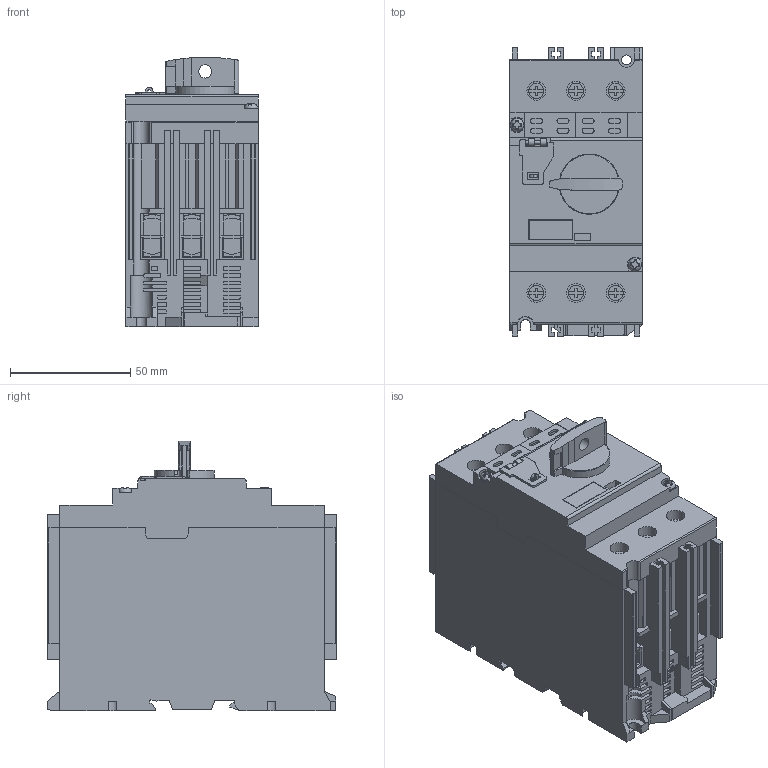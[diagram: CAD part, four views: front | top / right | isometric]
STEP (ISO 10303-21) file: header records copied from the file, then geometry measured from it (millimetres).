
FILE_DESCRIPTION (( 'STEP AP214' ), '1' );
FILE_NAME ('BM3VHB.STEP', '2015-06-04T01:04:08', ( '川崎工場' ), ( '富士電機株式会社' ), 'SwSTEP 2.0', 'SolidWorks 2014', '' );
FILE_SCHEMA (( 'AUTOMOTIVE_DESIGN' ));
Length unit declared in the file: millimetre
Products named in the file (9): BM3VHB; BM3VHB_Tab; BM3VHB_Rail_mounting_part; BM3VHB_accessorycover; BM3VHB_Terminal_Plate; BM3VHB_CaseCover; Screw_M3_L12; BM3VHB_Case; BM3VHB_Case_Front_Cover
Assembly tree (15 placements, depth 2):
  BM3VHB
    BM3VHB_Case
    BM3VHB_CaseCover
    BM3VHB_accessorycover  x2
    BM3VHB_Tab
    BM3VHB_Case_Front_Cover
    Screw_M3_L12  x2
    BM3VHB_Terminal_Plate  x6
    BM3VHB_Rail_mounting_part
Bounding box: 55 x 120 x 112 mm (x, y, z)
Volume: 468399.8 mm3; surface area: 106299.5 mm2
Topology: 28 solids, 28 shells, 1375 faces, 3794 edges, 2503 vertices
Faces by surface type: plane 1016, cylinder 353, cone 4, torus 2
Full cylindrical faces by diameter (mm): 1.6 x1, 3 x4, 3.3 x6, 3.5 x16, 4.1 x1, 5 x1, 5.5 x1, 6.3 x6, 7 x1, 7.8 x6, 25 x1
Entity records: 37202 total; most frequent: CARTESIAN_POINT 6872, ORIENTED_EDGE 6342, DIRECTION 6035, EDGE_CURVE 3171, VECTOR 2513, LINE 2513, VERTEX_POINT 2100, AXIS2_PLACEMENT_3D 1761
